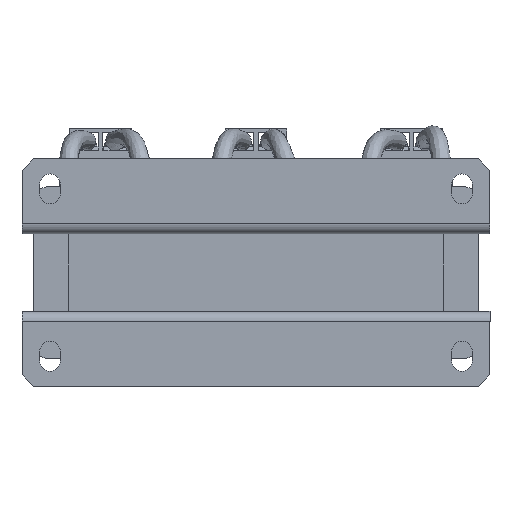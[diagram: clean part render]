
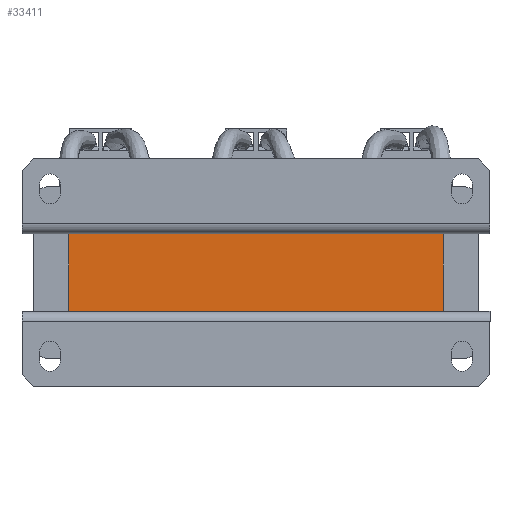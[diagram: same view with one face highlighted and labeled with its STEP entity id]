
A CAD part, front view. The second image highlights one B-rep face of the part: STEP entity #33411.
In plain terms, the highlighted planar face has unit normal (0, -1, 0).
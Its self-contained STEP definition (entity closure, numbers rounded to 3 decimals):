
#1623=LINE('',#51350,#5062);
#1682=LINE('',#51510,#5121);
#1792=LINE('',#51801,#5231);
#1797=LINE('',#51809,#5236);
#5062=VECTOR('',#40160,10.);
#5121=VECTOR('',#40317,10.);
#5231=VECTOR('',#40607,10.);
#5236=VECTOR('',#40618,10.);
#7894=PLANE('',#35603);
#9880=FACE_OUTER_BOUND('',#11741,.T.);
#11741=EDGE_LOOP('',(#25086,#25087,#25088,#25089));
#14934=VERTEX_POINT('',#51339);
#14938=VERTEX_POINT('',#51348);
#14986=VERTEX_POINT('',#51499);
#14990=VERTEX_POINT('',#51508);
#18512=EDGE_CURVE('',#14938,#14934,#1623,.T.);
#18590=EDGE_CURVE('',#14990,#14986,#1682,.T.);
#18736=EDGE_CURVE('',#14990,#14934,#1792,.T.);
#18741=EDGE_CURVE('',#14938,#14986,#1797,.T.);
#25086=ORIENTED_EDGE('',*,*,#18741,.T.);
#25087=ORIENTED_EDGE('',*,*,#18590,.F.);
#25088=ORIENTED_EDGE('',*,*,#18736,.T.);
#25089=ORIENTED_EDGE('',*,*,#18512,.F.);
#33411=ADVANCED_FACE('',(#9880),#7894,.T.);
#35603=AXIS2_PLACEMENT_3D('',#51854,#40669,#40670);
#40160=DIRECTION('',(-1.,0.,0.));
#40317=DIRECTION('',(1.,0.,0.));
#40607=DIRECTION('',(0.,0.,-1.));
#40618=DIRECTION('',(0.,0.,1.));
#40669=DIRECTION('center_axis',(0.,-1.,0.));
#40670=DIRECTION('ref_axis',(1.,0.,0.));
#51339=CARTESIAN_POINT('',(-50.,-50.9,-10.35));
#51348=CARTESIAN_POINT('',(50.,-50.9,-10.35));
#51350=CARTESIAN_POINT('',(50.,-50.9,-10.35));
#51499=CARTESIAN_POINT('',(50.,-50.9,10.35));
#51508=CARTESIAN_POINT('',(-50.,-50.9,10.35));
#51510=CARTESIAN_POINT('',(50.,-50.9,10.35));
#51801=CARTESIAN_POINT('',(-50.,-50.9,0.));
#51809=CARTESIAN_POINT('',(50.,-50.9,0.));
#51854=CARTESIAN_POINT('Origin',(-50.,-50.9,0.));
